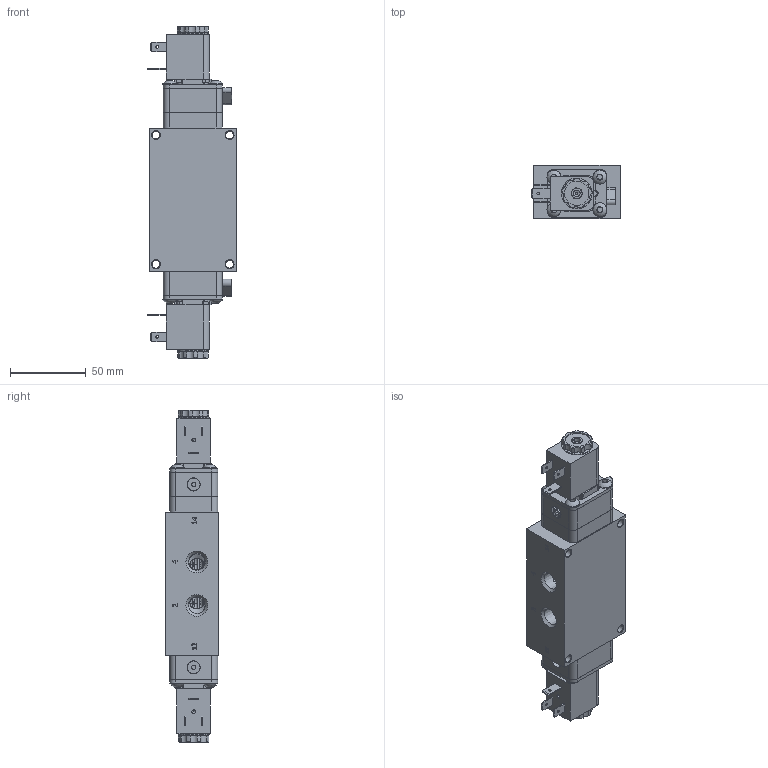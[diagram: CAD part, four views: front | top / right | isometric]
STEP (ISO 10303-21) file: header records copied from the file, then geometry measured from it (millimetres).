
FILE_DESCRIPTION(/* description */ (''),/* implementation_level */ '2;1');
FILE_NAME(/* name */ 'ZESY2OZ.stp',/* time_stamp */ '2026-09-07T16:06:16-04:00',/* author */ ('rmckenna'),/* organization */ (''),/* preprocessor_version */ 'ST-DEVELOPER v20.2',/* originating_system */ 'Autodesk Inventor 2027',/* authorisation */ '');
FILE_SCHEMA (('AUTOMOTIVE_DESIGN { 1 0 10303 214 3 1 1 }'));
Products named in the file (1): Part29
Bounding box: 58.17 x 34.92 x 218.43 mm (x, y, z)
Volume: 242925.5 mm3; surface area: 88815.8 mm2
Topology: 2 solids, 22 shells, 2148 faces, 5329 edges, 3392 vertices
Faces by surface type: plane 1031, cylinder 588, cone 278, torus 147, bspline 96, sphere 8
Full cylindrical faces by diameter (mm): 1.3 x2, 1.397 x2, 1.5 x4, 1.651 x6, 2.032 x8, 2.35 x8, 2.388 x1, 2.464 x2, 2.5 x2, 2.8 x2, 3 x8, 3.048 x1, 3.175 x2, 3.4 x2, 3.683 x11, 4.191 x4, 4.305 x2, 4.394 x1, 4.826 x8, 5.105 x4, 5.15 x8, 5.156 x16, 5.5 x2, 6.65 x2, 6.9 x2, 7.188 x2, 7.75 x2, 7.9 x2, 8 x4, 8.001 x2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
Entity records: 70013 total; most frequent: CARTESIAN_POINT 16315, DIRECTION 10768, ORIENTED_EDGE 10636, EDGE_CURVE 5318, AXIS2_PLACEMENT_3D 3970, VERTEX_POINT 3392, LINE 2828, VECTOR 2828
